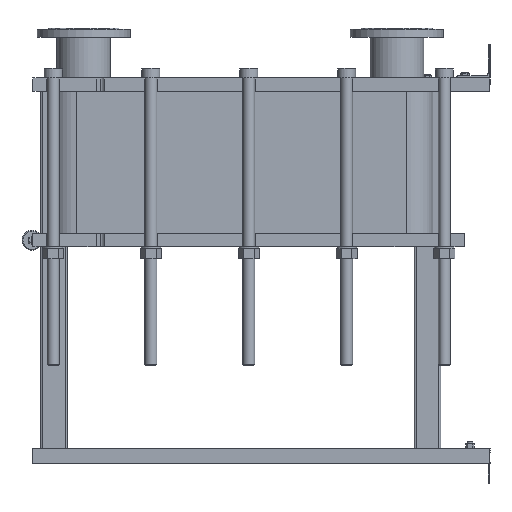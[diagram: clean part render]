
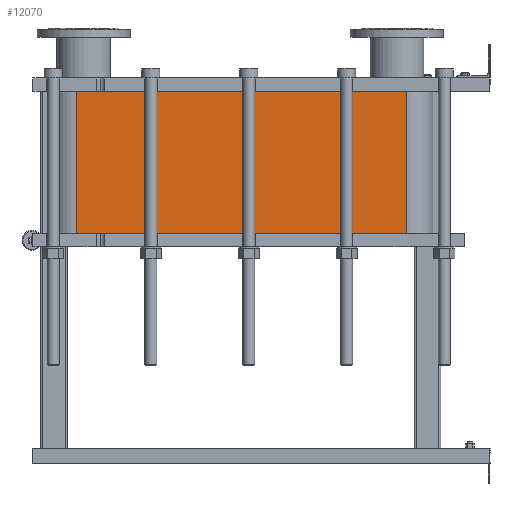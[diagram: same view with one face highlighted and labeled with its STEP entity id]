
A CAD part, left-side view. The second image highlights one B-rep face of the part: STEP entity #12070.
In plain terms, the highlighted planar face has unit normal (-1, 0, 0).
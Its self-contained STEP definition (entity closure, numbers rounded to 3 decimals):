
#1064=LINE('',#21140,#2164);
#1065=LINE('',#21144,#2165);
#1066=LINE('',#21146,#2166);
#1067=LINE('',#21147,#2167);
#2164=VECTOR('',#15790,10.);
#2165=VECTOR('',#15795,10.);
#2166=VECTOR('',#15796,10.);
#2167=VECTOR('',#15797,10.);
#3304=FACE_OUTER_BOUND('',#4091,.T.);
#4091=EDGE_LOOP('',(#9793,#9794,#9795,#9796));
#5677=VERTEX_POINT('',#21137);
#5678=VERTEX_POINT('',#21139);
#5679=VERTEX_POINT('',#21143);
#5680=VERTEX_POINT('',#21145);
#7118=EDGE_CURVE('',#5678,#5677,#1064,.T.);
#7120=EDGE_CURVE('',#5677,#5679,#1065,.T.);
#7121=EDGE_CURVE('',#5680,#5679,#1066,.T.);
#7122=EDGE_CURVE('',#5680,#5678,#1067,.T.);
#9793=ORIENTED_EDGE('',*,*,#7120,.T.);
#9794=ORIENTED_EDGE('',*,*,#7121,.F.);
#9795=ORIENTED_EDGE('',*,*,#7122,.T.);
#9796=ORIENTED_EDGE('',*,*,#7118,.T.);
#11441=PLANE('',#13191);
#12070=ADVANCED_FACE('',(#3304),#11441,.T.);
#13191=AXIS2_PLACEMENT_3D('',#21142,#15793,#15794);
#15790=DIRECTION('',(0.,0.,-1.));
#15793=DIRECTION('center_axis',(-1.,0.,0.));
#15794=DIRECTION('ref_axis',(0.,1.,0.));
#15795=DIRECTION('',(0.,-1.,0.));
#15796=DIRECTION('',(0.,0.,-1.));
#15797=DIRECTION('',(0.,1.,0.));
#21137=CARTESIAN_POINT('',(-248.152,1243.818,-427.8));
#21139=CARTESIAN_POINT('',(-248.152,1243.818,0.));
#21140=CARTESIAN_POINT('',(-248.152,1243.818,0.));
#21142=CARTESIAN_POINT('Origin',(-248.152,251.818,0.));
#21143=CARTESIAN_POINT('',(-248.152,251.818,-427.8));
#21144=CARTESIAN_POINT('',(-248.152,499.818,-427.8));
#21145=CARTESIAN_POINT('',(-248.152,251.818,0.));
#21146=CARTESIAN_POINT('',(-248.152,251.818,0.));
#21147=CARTESIAN_POINT('',(-248.152,251.818,0.));
